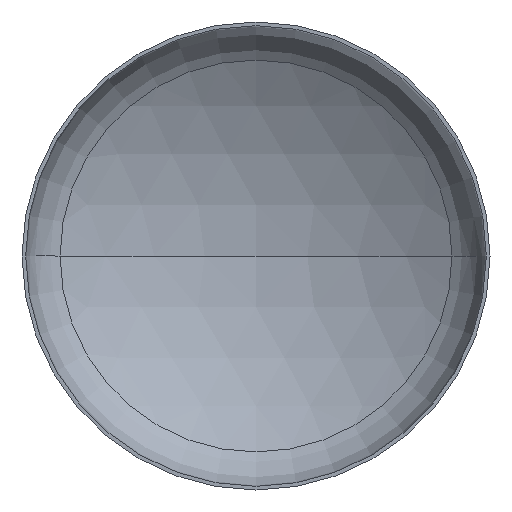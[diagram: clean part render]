
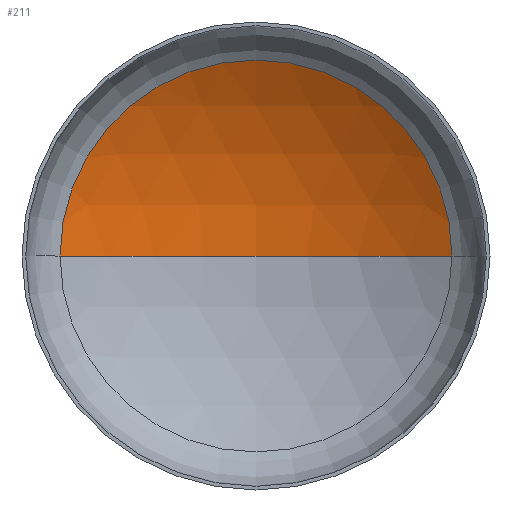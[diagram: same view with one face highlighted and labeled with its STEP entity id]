
A CAD part, front view. The second image highlights one B-rep face of the part: STEP entity #211.
In plain terms, the highlighted spherical face has radius 1920 mm.
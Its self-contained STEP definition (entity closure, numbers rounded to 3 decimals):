
#1 = AXIS2_PLACEMENT_3D ( 'NONE', #289, #383, #248 ) ;
#12 = DIRECTION ( 'NONE',  ( 0., 0., -1. ) ) ;
#16 = EDGE_LOOP ( 'NONE', ( #35, #27, #115 ) ) ;
#17 = AXIS2_PLACEMENT_3D ( 'NONE', #284, #355, #333 ) ;
#25 = AXIS2_PLACEMENT_3D ( 'NONE', #161, #159, #160 ) ;
#27 = ORIENTED_EDGE ( 'NONE', *, *, #347, .T. ) ;
#29 = VERTEX_POINT ( 'NONE', #282 ) ;
#35 = ORIENTED_EDGE ( 'NONE', *, *, #391, .F. ) ;
#42 = FACE_OUTER_BOUND ( 'NONE', #16, .T. ) ;
#49 = AXIS2_PLACEMENT_3D ( 'NONE', #379, #12, #398 ) ;
#97 = VERTEX_POINT ( 'NONE', #302 ) ;
#115 = ORIENTED_EDGE ( 'NONE', *, *, #337, .T. ) ;
#118 = VERTEX_POINT ( 'NONE', #199 ) ;
#159 = DIRECTION ( 'NONE',  ( 0., -1., 0. ) ) ;
#160 = DIRECTION ( 'NONE',  ( 1., 0., 0. ) ) ;
#161 = CARTESIAN_POINT ( 'NONE',  ( 0., 375.312, 0. ) ) ;
#199 = CARTESIAN_POINT ( 'NONE',  ( 1004.594, 375.312, 0. ) ) ;
#211 = ADVANCED_FACE ( 'NONE', ( #42 ), #232, .F. ) ;
#232 = SPHERICAL_SURFACE ( 'NONE', #49, 1920. ) ;
#248 = DIRECTION ( 'NONE',  ( 1., 0., 0. ) ) ;
#264 = CIRCLE ( 'NONE', #17, 1920. ) ;
#271 = CIRCLE ( 'NONE', #25, 1004.594 ) ;
#282 = CARTESIAN_POINT ( 'NONE',  ( -1004.594, 375.312, 0. ) ) ;
#284 = CARTESIAN_POINT ( 'NONE',  ( 0., -1260.901, 0. ) ) ;
#289 = CARTESIAN_POINT ( 'NONE',  ( 0., -1260.901, 0. ) ) ;
#302 = CARTESIAN_POINT ( 'NONE',  ( 0., 659.099, 0. ) ) ;
#333 = DIRECTION ( 'NONE',  ( -1., 0., 0. ) ) ;
#337 = EDGE_CURVE ( 'NONE', #118, #29, #271, .T. ) ;
#347 = EDGE_CURVE ( 'NONE', #97, #118, #264, .T. ) ;
#355 = DIRECTION ( 'NONE',  ( 0., 0., -1. ) ) ;
#368 = CIRCLE ( 'NONE', #1, 1920. ) ;
#379 = CARTESIAN_POINT ( 'NONE',  ( 0., -1260.901, 0. ) ) ;
#383 = DIRECTION ( 'NONE',  ( 0., 0., 1. ) ) ;
#391 = EDGE_CURVE ( 'NONE', #97, #29, #368, .T. ) ;
#398 = DIRECTION ( 'NONE',  ( -1., 0., 0. ) ) ;
